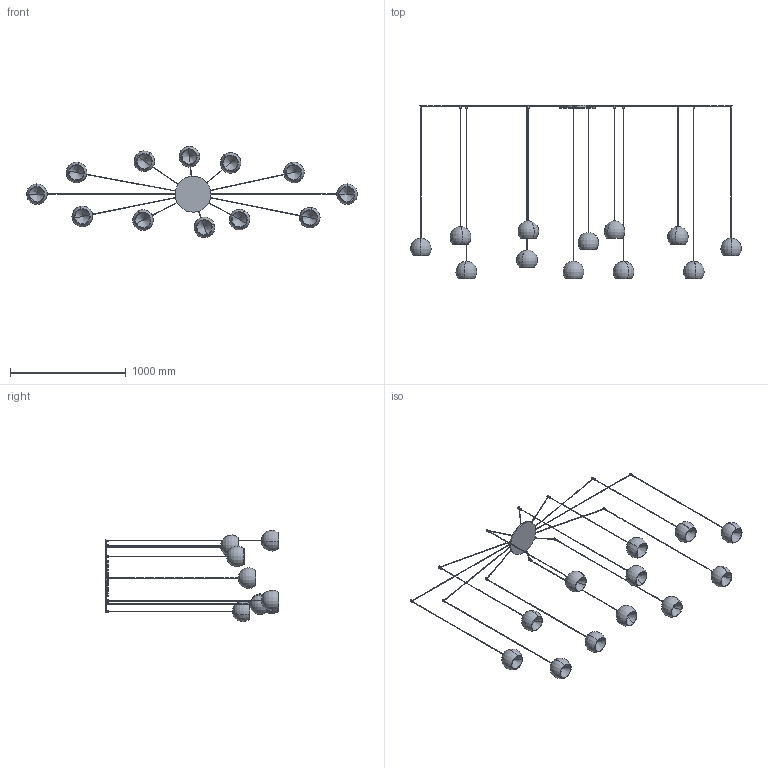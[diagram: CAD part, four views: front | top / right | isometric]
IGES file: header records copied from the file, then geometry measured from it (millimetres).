
Start section: SolidWorks IGES file using analytic representation for surfaces
Global section: file name: Y:\eforma\TECNICO\SOLIDWORKS\E-FORMA\09-LAMPADE\CHERRY\02 parts\CHRA3-00-CHERRY_12 sospensione.IGS; native system: SolidWorks 2022; preprocessor: SolidWorks 2022; author: eforma.tech; date: 250506.081714; units: millimetre
Bounding box: 2857.72 x 1500 x 789.13 mm (x, y, z)
Volume: 3766022.5 mm3; surface area: 2984154.4 mm2
Topology: 61 solids, 61 shells, 449 faces, 950 edges, 600 vertices
Faces by surface type: revolution 302, plane 147
